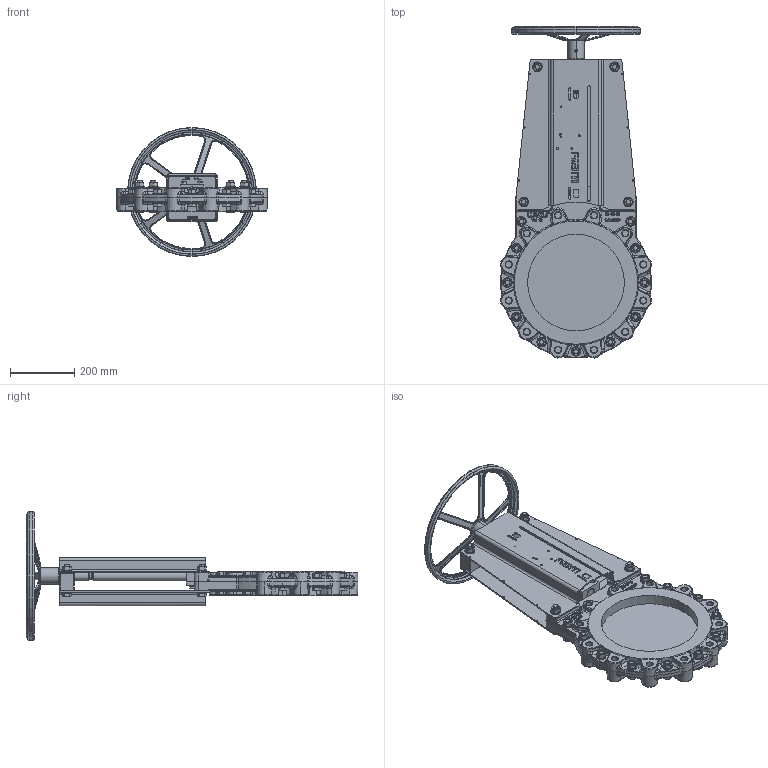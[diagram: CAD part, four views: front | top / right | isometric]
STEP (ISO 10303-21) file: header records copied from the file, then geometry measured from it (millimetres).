
FILE_DESCRIPTION (( 'STEP AP203' ), '1' );
FILE_NAME ('VMA DN 300 DH400.step', '2013-09-30T09:15:39', ( 'admin' ), ( '' ), 'SwSTEP 2.0', 'SolidWorks 2013', '' );
FILE_SCHEMA (( 'CONFIG_CONTROL_DESIGN' ));
Products named in the file (1): VMA DN 300 DH400
Bounding box: 468 x 1029.23 x 400 mm (x, y, z)
Volume: 11626388 mm3; surface area: 1879355.5 mm2
Topology: 70 solids, 71 shells, 3583 faces, 8650 edges, 5215 vertices
Faces by surface type: plane 1244, cylinder 854, bspline 678, cone 577, torus 230
Entity records: 140111 total; most frequent: CARTESIAN_POINT 61602, ORIENTED_EDGE 17064, DIRECTION 15085, EDGE_CURVE 8532, AXIS2_PLACEMENT_3D 5801, VERTEX_POINT 5215, EDGE_LOOP 3957, ADVANCED_FACE 3583
